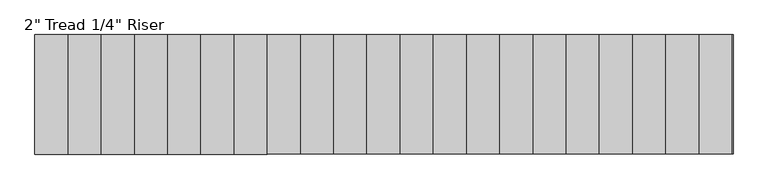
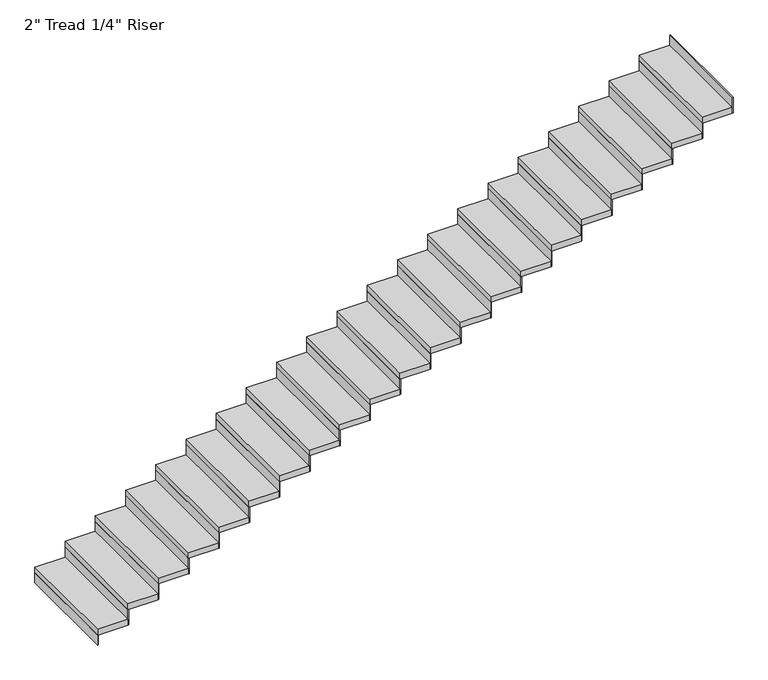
"""IFC4 building model written with IfcOpenShell, lengths in millimetres: stair flight geometry."""

from ifc_helpers import new_model, si_unit, frame, origin, origin_with_axes, place, context, project, spatial, polyline, outline, extrude, source, transform, mapped, element, save


def stair_flight_9eae0647(model_context):
    return source(origin(), model_context, "Body", "SweptSolid", [
        extrude(outline(polyline([(12122.4949767, 50586.5904464), (12116.1449767, 50586.5904464), (12116.1449767, 51500.9904464), (12122.4949767, 51500.9904464), (12122.4949767, 50586.5904464)])), origin_with_axes(), (0.0, 0.0, 1.0), 87.7454545),
        extrude(outline(polyline([(12370.1449767, 51500.9904464), (12370.1449767, 50586.5904464), (12116.1449767, 50586.5904464), (12116.1449767, 51500.9904464), (12370.1449767, 51500.9904464)])), frame((0.0, 0.0, 87.7454545), z_axis=(0.0, 0.0, 1.0), x_axis=(1.0, 0.0, 0.0)), (0.0, 0.0, 1.0), 50.8),
        extrude(outline(polyline([(12376.4949767, 50586.5904464), (12370.1449767, 50586.5904464), (12370.1449767, 51500.9904464), (12376.4949767, 51500.9904464), (12376.4949767, 50586.5904464)])), frame((0.0, 0.0, 87.7454545), z_axis=(0.0, 0.0, 1.0), x_axis=(1.0, 0.0, 0.0)), (0.0, 0.0, 1.0), 138.5454545),
        extrude(outline(polyline([(12624.1449767, 51500.9904464), (12624.1449767, 50586.5904464), (12370.1449767, 50586.5904464), (12370.1449767, 51500.9904464), (12624.1449767, 51500.9904464)])), frame((0.0, 0.0, 226.2909091), z_axis=(0.0, 0.0, 1.0), x_axis=(1.0, 0.0, 0.0)), (0.0, 0.0, 1.0), 50.8),
        extrude(outline(polyline([(12630.4949767, 50586.5904464), (12624.1449767, 50586.5904464), (12624.1449767, 51500.9904464), (12630.4949767, 51500.9904464), (12630.4949767, 50586.5904464)])), frame((0.0, 0.0, 226.2909091), z_axis=(0.0, 0.0, 1.0), x_axis=(1.0, 0.0, 0.0)), (0.0, 0.0, 1.0), 138.5454545),
        extrude(outline(polyline([(12878.1449767, 51500.9904464), (12878.1449767, 50586.5904464), (12624.1449767, 50586.5904464), (12624.1449767, 51500.9904464), (12878.1449767, 51500.9904464)])), frame((0.0, 0.0, 364.8363636), z_axis=(0.0, 0.0, 1.0), x_axis=(1.0, 0.0, 0.0)), (0.0, 0.0, 1.0), 50.8),
        extrude(outline(polyline([(12884.4949767, 50586.5904464), (12878.1449767, 50586.5904464), (12878.1449767, 51500.9904464), (12884.4949767, 51500.9904464), (12884.4949767, 50586.5904464)])), frame((0.0, 0.0, 364.8363636), z_axis=(0.0, 0.0, 1.0), x_axis=(1.0, 0.0, 0.0)), (0.0, 0.0, 1.0), 138.5454545),
        extrude(outline(polyline([(13132.1449767, 51500.9904464), (13132.1449767, 50586.5904464), (12878.1449767, 50586.5904464), (12878.1449767, 51500.9904464), (13132.1449767, 51500.9904464)])), frame((0.0, 0.0, 503.3818182), z_axis=(0.0, 0.0, 1.0), x_axis=(1.0, 0.0, 0.0)), (0.0, 0.0, 1.0), 50.8),
        extrude(outline(polyline([(13138.4949767, 50586.5904464), (13132.1449767, 50586.5904464), (13132.1449767, 51500.9904464), (13138.4949767, 51500.9904464), (13138.4949767, 50586.5904464)])), frame((0.0, 0.0, 503.3818182), z_axis=(0.0, 0.0, 1.0), x_axis=(1.0, 0.0, 0.0)), (0.0, 0.0, 1.0), 138.5454545),
        extrude(outline(polyline([(13386.1449767, 51500.9904464), (13386.1449767, 50586.5904464), (13132.1449767, 50586.5904464), (13132.1449767, 51500.9904464), (13386.1449767, 51500.9904464)])), frame((0.0, 0.0, 641.9272727), z_axis=(0.0, 0.0, 1.0), x_axis=(1.0, 0.0, 0.0)), (0.0, 0.0, 1.0), 50.8),
        extrude(outline(polyline([(13392.4949767, 50586.5904464), (13386.1449767, 50586.5904464), (13386.1449767, 51500.9904464), (13392.4949767, 51500.9904464), (13392.4949767, 50586.5904464)])), frame((0.0, 0.0, 641.9272727), z_axis=(0.0, 0.0, 1.0), x_axis=(1.0, 0.0, 0.0)), (0.0, 0.0, 1.0), 138.5454545),
        extrude(outline(polyline([(13640.1449767, 51500.9904464), (13640.1449767, 50586.5904464), (13386.1449767, 50586.5904464), (13386.1449767, 51500.9904464), (13640.1449767, 51500.9904464)])), frame((0.0, 0.0, 780.4727273), z_axis=(0.0, 0.0, 1.0), x_axis=(1.0, 0.0, 0.0)), (0.0, 0.0, 1.0), 50.8),
        extrude(outline(polyline([(13646.4949767, 50586.5904464), (13640.1449767, 50586.5904464), (13640.1449767, 51500.9904464), (13646.4949767, 51500.9904464), (13646.4949767, 50586.5904464)])), frame((0.0, 0.0, 780.4727273), z_axis=(0.0, 0.0, 1.0), x_axis=(1.0, 0.0, 0.0)), (0.0, 0.0, 1.0), 138.5454545),
        extrude(outline(polyline([(13894.1449767, 51500.9904464), (13894.1449767, 50586.5904464), (13640.1449767, 50586.5904464), (13640.1449767, 51500.9904464), (13894.1449767, 51500.9904464)])), frame((0.0, 0.0, 919.0181818), z_axis=(0.0, 0.0, 1.0), x_axis=(1.0, 0.0, 0.0)), (0.0, 0.0, 1.0), 50.8),
        extrude(outline(polyline([(13900.4949767, 50586.5904464), (13894.1449767, 50586.5904464), (13894.1449767, 51500.9904464), (13900.4949767, 51500.9904464), (13900.4949767, 50586.5904464)])), frame((0.0, 0.0, 919.0181818), z_axis=(0.0, 0.0, 1.0), x_axis=(1.0, 0.0, 0.0)), (0.0, 0.0, 1.0), 138.5454545),
        extrude(outline(polyline([(14148.1449767, 51500.9904464), (14148.1449767, 50586.5904464), (13894.1449767, 50586.5904464), (13894.1449767, 51500.9904464), (14148.1449767, 51500.9904464)])), frame((0.0, 0.0, 1057.5636364), z_axis=(0.0, 0.0, 1.0), x_axis=(1.0, 0.0, 0.0)), (0.0, 0.0, 1.0), 50.8),
        extrude(outline(polyline([(14154.4949767, 50586.5904464), (14148.1449767, 50586.5904464), (14148.1449767, 51500.9904464), (14154.4949767, 51500.9904464), (14154.4949767, 50586.5904464)])), frame((0.0, 0.0, 1057.5636364), z_axis=(0.0, 0.0, 1.0), x_axis=(1.0, 0.0, 0.0)), (0.0, 0.0, 1.0), 138.5454545),
        extrude(outline(polyline([(14402.1449767, 51500.9904464), (14402.1449767, 50586.5904464), (14148.1449767, 50586.5904464), (14148.1449767, 51500.9904464), (14402.1449767, 51500.9904464)])), frame((0.0, 0.0, 1196.1090909), z_axis=(0.0, 0.0, 1.0), x_axis=(1.0, 0.0, 0.0)), (0.0, 0.0, 1.0), 50.8),
        extrude(outline(polyline([(14408.4949767, 50586.5904464), (14402.1449767, 50586.5904464), (14402.1449767, 51500.9904464), (14408.4949767, 51500.9904464), (14408.4949767, 50586.5904464)])), frame((0.0, 0.0, 1196.1090909), z_axis=(0.0, 0.0, 1.0), x_axis=(1.0, 0.0, 0.0)), (0.0, 0.0, 1.0), 138.5454545),
        extrude(outline(polyline([(14656.1449767, 51500.9904464), (14656.1449767, 50586.5904464), (14402.1449767, 50586.5904464), (14402.1449767, 51500.9904464), (14656.1449767, 51500.9904464)])), frame((0.0, 0.0, 1334.6545455), z_axis=(0.0, 0.0, 1.0), x_axis=(1.0, 0.0, 0.0)), (0.0, 0.0, 1.0), 50.8),
        extrude(outline(polyline([(14662.4949767, 50586.5904464), (14656.1449767, 50586.5904464), (14656.1449767, 51500.9904464), (14662.4949767, 51500.9904464), (14662.4949767, 50586.5904464)])), frame((0.0, 0.0, 1334.6545455), z_axis=(0.0, 0.0, 1.0), x_axis=(1.0, 0.0, 0.0)), (0.0, 0.0, 1.0), 138.5454545),
        extrude(outline(polyline([(14910.1449767, 51500.9904464), (14910.1449767, 50586.5904464), (14656.1449767, 50586.5904464), (14656.1449767, 51500.9904464), (14910.1449767, 51500.9904464)])), frame((0.0, 0.0, 1473.2), z_axis=(0.0, 0.0, 1.0), x_axis=(1.0, 0.0, 0.0)), (0.0, 0.0, 1.0), 50.8),
        extrude(outline(polyline([(14916.4949767, 50586.5904464), (14910.1449767, 50586.5904464), (14910.1449767, 51500.9904464), (14916.4949767, 51500.9904464), (14916.4949767, 50586.5904464)])), frame((0.0, 0.0, 1473.2), z_axis=(0.0, 0.0, 1.0), x_axis=(1.0, 0.0, 0.0)), (0.0, 0.0, 1.0), 138.5454545),
        extrude(outline(polyline([(15164.1449767, 51500.9904464), (15164.1449767, 50586.5904464), (14910.1449767, 50586.5904464), (14910.1449767, 51500.9904464), (15164.1449767, 51500.9904464)])), frame((0.0, 0.0, 1611.7454545), z_axis=(0.0, 0.0, 1.0), x_axis=(1.0, 0.0, 0.0)), (0.0, 0.0, 1.0), 50.8),
        extrude(outline(polyline([(15170.4949767, 50586.5904464), (15164.1449767, 50586.5904464), (15164.1449767, 51500.9904464), (15170.4949767, 51500.9904464), (15170.4949767, 50586.5904464)])), frame((0.0, 0.0, 1611.7454545), z_axis=(0.0, 0.0, 1.0), x_axis=(1.0, 0.0, 0.0)), (0.0, 0.0, 1.0), 138.5454545),
        extrude(outline(polyline([(15418.1449767, 51500.9904464), (15418.1449767, 50586.5904464), (15164.1449767, 50586.5904464), (15164.1449767, 51500.9904464), (15418.1449767, 51500.9904464)])), frame((0.0, 0.0, 1750.2909091), z_axis=(0.0, 0.0, 1.0), x_axis=(1.0, 0.0, 0.0)), (0.0, 0.0, 1.0), 50.8),
        extrude(outline(polyline([(15424.4949767, 50586.5904464), (15418.1449767, 50586.5904464), (15418.1449767, 51500.9904464), (15424.4949767, 51500.9904464), (15424.4949767, 50586.5904464)])), frame((0.0, 0.0, 1750.2909091), z_axis=(0.0, 0.0, 1.0), x_axis=(1.0, 0.0, 0.0)), (0.0, 0.0, 1.0), 138.5454545),
        extrude(outline(polyline([(15672.1449767, 51500.9904464), (15672.1449767, 50586.5904464), (15418.1449767, 50586.5904464), (15418.1449767, 51500.9904464), (15672.1449767, 51500.9904464)])), frame((0.0, 0.0, 1888.8363636), z_axis=(0.0, 0.0, 1.0), x_axis=(1.0, 0.0, 0.0)), (0.0, 0.0, 1.0), 50.8),
        extrude(outline(polyline([(15678.4949767, 50586.5904464), (15672.1449767, 50586.5904464), (15672.1449767, 51500.9904464), (15678.4949767, 51500.9904464), (15678.4949767, 50586.5904464)])), frame((0.0, 0.0, 1888.8363636), z_axis=(0.0, 0.0, 1.0), x_axis=(1.0, 0.0, 0.0)), (0.0, 0.0, 1.0), 138.5454545),
        extrude(outline(polyline([(15926.1449767, 51500.9904464), (15926.1449767, 50586.5904464), (15672.1449767, 50586.5904464), (15672.1449767, 51500.9904464), (15926.1449767, 51500.9904464)])), frame((0.0, 0.0, 2027.3818182), z_axis=(0.0, 0.0, 1.0), x_axis=(1.0, 0.0, 0.0)), (0.0, 0.0, 1.0), 50.8),
        extrude(outline(polyline([(15932.4949767, 50586.5904464), (15926.1449767, 50586.5904464), (15926.1449767, 51500.9904464), (15932.4949767, 51500.9904464), (15932.4949767, 50586.5904464)])), frame((0.0, 0.0, 2027.3818182), z_axis=(0.0, 0.0, 1.0), x_axis=(1.0, 0.0, 0.0)), (0.0, 0.0, 1.0), 138.5454545),
        extrude(outline(polyline([(16180.1449767, 51500.9904464), (16180.1449767, 50586.5904464), (15926.1449767, 50586.5904464), (15926.1449767, 51500.9904464), (16180.1449767, 51500.9904464)])), frame((0.0, 0.0, 2165.9272727), z_axis=(0.0, 0.0, 1.0), x_axis=(1.0, 0.0, 0.0)), (0.0, 0.0, 1.0), 50.8),
        extrude(outline(polyline([(16186.4949767, 50586.5904464), (16180.1449767, 50586.5904464), (16180.1449767, 51500.9904464), (16186.4949767, 51500.9904464), (16186.4949767, 50586.5904464)])), frame((0.0, 0.0, 2165.9272727), z_axis=(0.0, 0.0, 1.0), x_axis=(1.0, 0.0, 0.0)), (0.0, 0.0, 1.0), 138.5454545),
        extrude(outline(polyline([(16434.1449767, 51500.9904464), (16434.1449767, 50586.5904464), (16180.1449767, 50586.5904464), (16180.1449767, 51500.9904464), (16434.1449767, 51500.9904464)])), frame((0.0, 0.0, 2304.4727273), z_axis=(0.0, 0.0, 1.0), x_axis=(1.0, 0.0, 0.0)), (0.0, 0.0, 1.0), 50.8),
        extrude(outline(polyline([(16440.4949767, 50586.5904464), (16434.1449767, 50586.5904464), (16434.1449767, 51500.9904464), (16440.4949767, 51500.9904464), (16440.4949767, 50586.5904464)])), frame((0.0, 0.0, 2304.4727273), z_axis=(0.0, 0.0, 1.0), x_axis=(1.0, 0.0, 0.0)), (0.0, 0.0, 1.0), 138.5454545),
        extrude(outline(polyline([(16688.1449767, 51500.9904464), (16688.1449767, 50586.5904464), (16434.1449767, 50586.5904464), (16434.1449767, 51500.9904464), (16688.1449767, 51500.9904464)])), frame((0.0, 0.0, 2443.0181818), z_axis=(0.0, 0.0, 1.0), x_axis=(1.0, 0.0, 0.0)), (0.0, 0.0, 1.0), 50.8),
        extrude(outline(polyline([(16694.4949767, 50586.5904464), (16688.1449767, 50586.5904464), (16688.1449767, 51500.9904464), (16694.4949767, 51500.9904464), (16694.4949767, 50586.5904464)])), frame((0.0, 0.0, 2443.0181818), z_axis=(0.0, 0.0, 1.0), x_axis=(1.0, 0.0, 0.0)), (0.0, 0.0, 1.0), 138.5454545),
        extrude(outline(polyline([(16942.1449767, 51500.9904464), (16942.1449767, 50586.5904464), (16688.1449767, 50586.5904464), (16688.1449767, 51500.9904464), (16942.1449767, 51500.9904464)])), frame((0.0, 0.0, 2581.5636364), z_axis=(0.0, 0.0, 1.0), x_axis=(1.0, 0.0, 0.0)), (0.0, 0.0, 1.0), 50.8),
        extrude(outline(polyline([(16948.4949767, 50586.5904464), (16942.1449767, 50586.5904464), (16942.1449767, 51500.9904464), (16948.4949767, 51500.9904464), (16948.4949767, 50586.5904464)])), frame((0.0, 0.0, 2581.5636364), z_axis=(0.0, 0.0, 1.0), x_axis=(1.0, 0.0, 0.0)), (0.0, 0.0, 1.0), 138.5454545),
        extrude(outline(polyline([(17196.1449767, 51500.9904464), (17196.1449767, 50586.5904464), (16942.1449767, 50586.5904464), (16942.1449767, 51500.9904464), (17196.1449767, 51500.9904464)])), frame((0.0, 0.0, 2720.1090909), z_axis=(0.0, 0.0, 1.0), x_axis=(1.0, 0.0, 0.0)), (0.0, 0.0, 1.0), 50.8),
        extrude(outline(polyline([(17202.4949767, 50586.5904464), (17196.1449767, 50586.5904464), (17196.1449767, 51500.9904464), (17202.4949767, 51500.9904464), (17202.4949767, 50586.5904464)])), frame((0.0, 0.0, 2720.1090909), z_axis=(0.0, 0.0, 1.0), x_axis=(1.0, 0.0, 0.0)), (0.0, 0.0, 1.0), 138.5454545),
        extrude(outline(polyline([(17456.4949767, 50586.5904464), (17450.1449767, 50586.5904464), (17450.1449767, 51500.9904464), (17456.4949767, 51500.9904464), (17456.4949767, 50586.5904464)])), frame((0.0, 0.0, 2858.6545455), z_axis=(0.0, 0.0, 1.0), x_axis=(1.0, 0.0, 0.0)), (0.0, 0.0, 1.0), 138.5454545),
        extrude(outline(polyline([(17450.1449767, 51500.9904464), (17450.1449767, 50586.5904464), (17196.1449767, 50586.5904464), (17196.1449767, 51500.9904464), (17450.1449767, 51500.9904464)])), frame((0.0, 0.0, 2858.6545455), z_axis=(0.0, 0.0, 1.0), x_axis=(1.0, 0.0, 0.0)), (0.0, 0.0, 1.0), 50.8),
    ])


if __name__ == "__main__":
    model = new_model("IFC4")
    model_context = context("Model", 3, world=origin())
    ifc_project = project(units=[si_unit("LENGTHUNIT", "METRE", prefix="MILLI")], contexts=[model_context])
    site = spatial("IfcSite", under=ifc_project)
    building = spatial("IfcBuilding", under=site)
    placement = place(None, origin())
    stair_flight_shape = stair_flight_9eae0647(model_context)
    element("IfcStairFlight", 1, ObjectType="2\" Tread 1/4\" Riser", at=placement, inside=building, context=model_context, shape_type="MappedRepresentation", body=[
        mapped(stair_flight_shape, transform((0.0, 0.0, 0.0), x_axis=(1.0, 0.0, 0.0), y_axis=(0.0, 1.0, 0.0), z_axis=(0.0, 0.0, 1.0))),
    ])
    save(model, "model.ifc")
